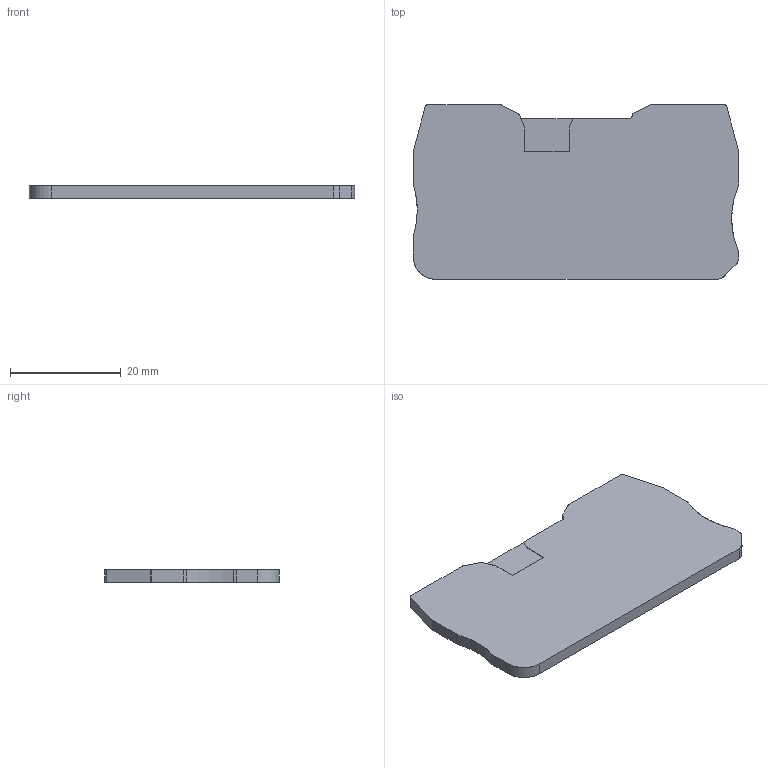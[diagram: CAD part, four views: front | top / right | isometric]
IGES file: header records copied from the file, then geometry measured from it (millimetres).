
Global section: file name: 3205161_d_qtc15_select.igs; native system: OneSpace Designer 3D IGES; preprocessor: 11.50A  18-Jul-2002; date: 20040210.071253; units: millimetre
Bounding box: 58.8 x 31.55 x 2.2 mm (x, y, z)
Surface area: 3909.8 mm2 (no closed solid volume)
Topology: 0 solids, 0 shells, 45 faces, 324 edges, 324 vertices
Faces by surface type: bspline 45
